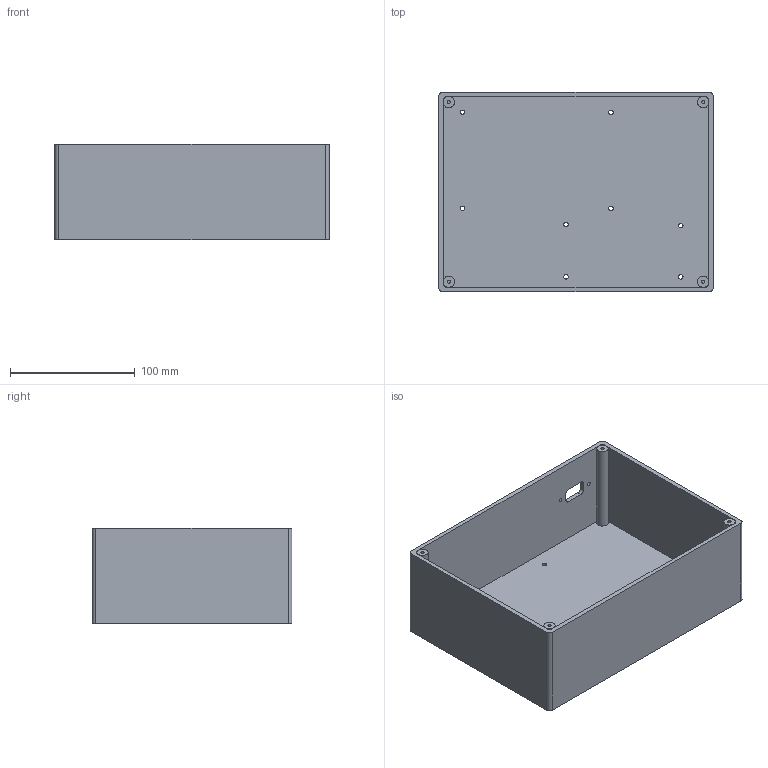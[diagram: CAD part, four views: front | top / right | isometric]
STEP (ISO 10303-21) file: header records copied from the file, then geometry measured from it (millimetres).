
FILE_DESCRIPTION(('Open CASCADE Model'),'2;1');
FILE_NAME('Open CASCADE Shape Model','2026-10-04T14:57:16',('Author'),( 'Open CASCADE'),'Open CASCADE STEP processor 7.8','Open CASCADE 7.8' ,'Unknown');
FILE_SCHEMA(('AUTOMOTIVE_DESIGN { 1 0 10303 214 1 1 1 1 }'));
Length unit declared in the file: millimetre
Products named in the file (1): Open CASCADE STEP translator 7.8 1
Bounding box: 220 x 160 x 76.5 mm (x, y, z)
Volume: 331060.5 mm3; surface area: 189600 mm2
Topology: 1 solids, 1 shells, 69 faces, 154 edges, 92 vertices
Faces by surface type: plane 35, cylinder 34
Full cylindrical faces by diameter (mm): 2.5 x4, 3.2 x2, 3.6 x8
Entity records: 3992 total; most frequent: CARTESIAN_POINT 748, DIRECTION 626, ORIENTED_EDGE 324, PCURVE 308, DEFINITIONAL_REPRESENTATION 308, LINE 298, VECTOR 298, EDGE_CURVE 154
